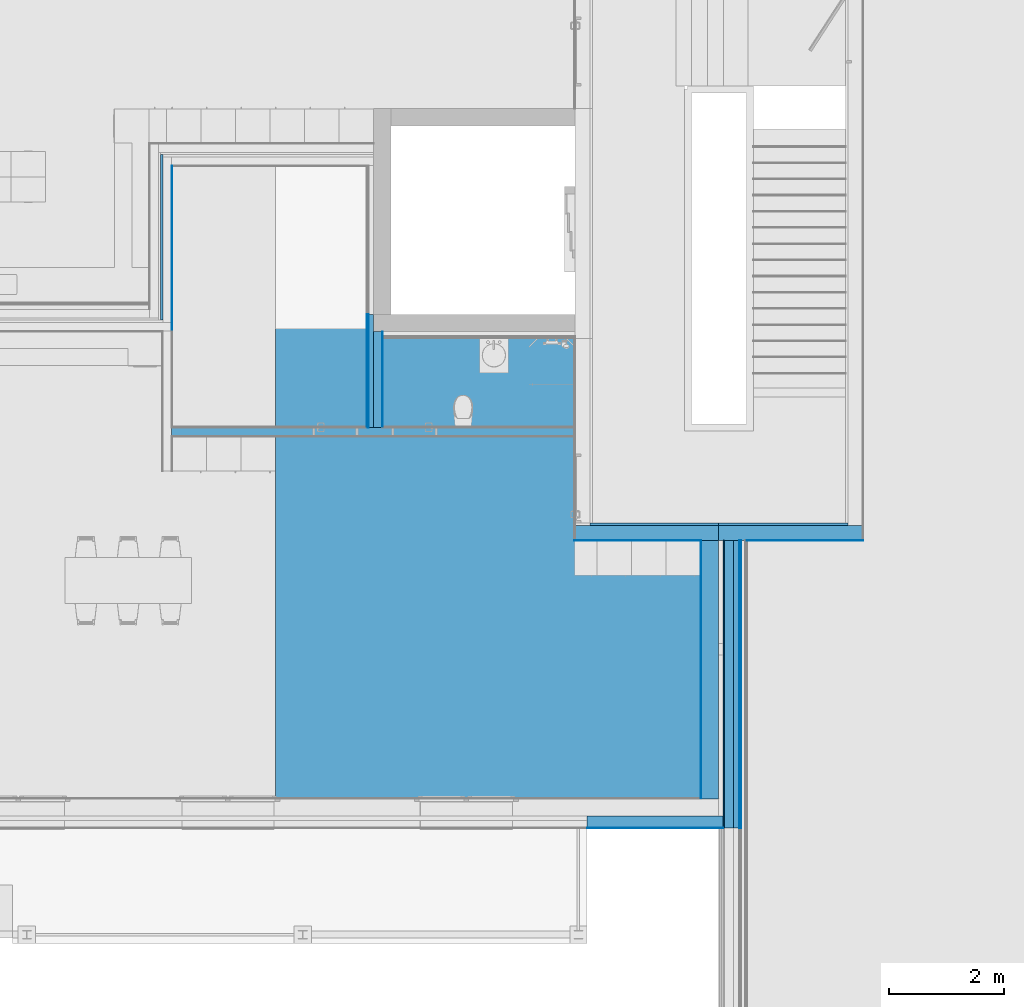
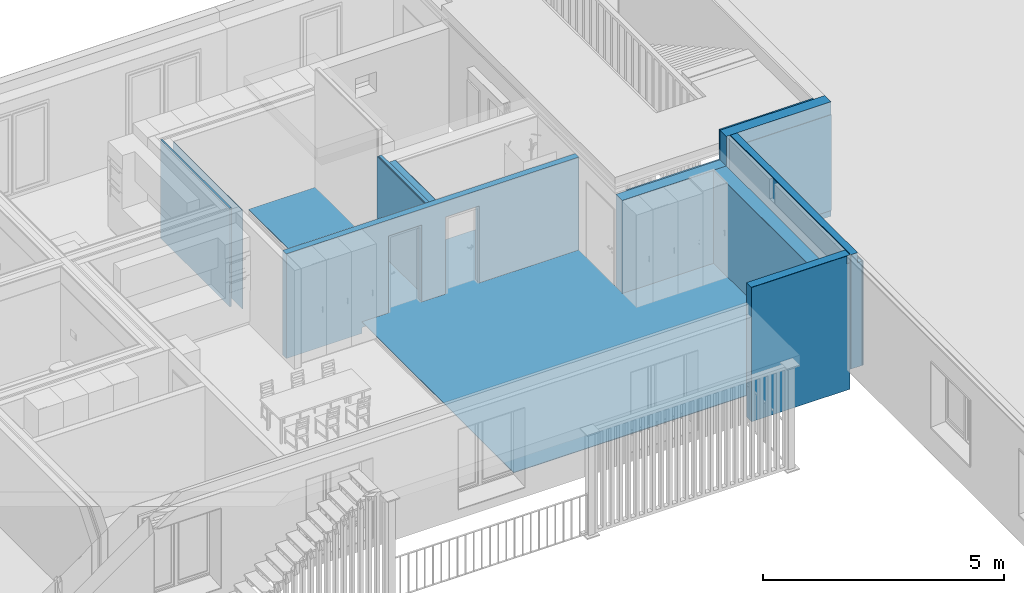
# One storey, part 11 of 34: 25 building element parts, 2 openings, 10 elements without a shape of their own.
"""IFC4 building model written with IfcOpenShell, lengths in millimetres."""

from ifc_helpers import new_model, entity, si_unit, converted_unit, derived_unit, direction, frame, origin_with_axes, place, context, subcontext, project, spatial, polygons, material, type_object, element, aggregate, save


model = new_model("IFC4")

# Units and contexts
model_context = context("Model", 3, precision=0.01, world=origin_with_axes(), true_north=direction((0.0, 1.0)))
body_context = subcontext(model_context, "Body", "Model", "MODEL_VIEW")
ifc_project = project(units=[si_unit("LENGTHUNIT", "METRE", prefix="MILLI"), si_unit("AREAUNIT", "SQUARE_METRE"), si_unit("VOLUMEUNIT", "CUBIC_METRE"), converted_unit("PLANEANGLEUNIT", "DEGREE", entity("IfcPlaneAngleMeasure", 0.0174532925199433), si_unit("PLANEANGLEUNIT", "RADIAN"), dimensions=[0, 0, 0, 0, 0, 0, 0]), converted_unit("TIMEUNIT", "Year", entity("IfcTimeMeasure", 31557600.0), si_unit("TIMEUNIT", "SECOND"), dimensions=[0, 0, 1, 0, 0, 0, 0]), si_unit("MASSUNIT", "GRAM", prefix="KILO"), si_unit("THERMODYNAMICTEMPERATUREUNIT", "DEGREE_CELSIUS"), si_unit("LUMINOUSINTENSITYUNIT", "LUMEN"), si_unit("ENERGYUNIT", "JOULE", prefix="MEGA"), derived_unit("THERMALCONDUCTANCEUNIT", [(si_unit("POWERUNIT", "WATT"), 1), (si_unit("LENGTHUNIT", "METRE"), -1), (si_unit("THERMODYNAMICTEMPERATUREUNIT", "KELVIN"), -1)]), derived_unit("SPECIFICHEATCAPACITYUNIT", [(si_unit("ENERGYUNIT", "JOULE"), 1), (si_unit("MASSUNIT", "GRAM", prefix="KILO"), -1), (si_unit("THERMODYNAMICTEMPERATUREUNIT", "KELVIN"), -1)]), derived_unit("MASSDENSITYUNIT", [(si_unit("MASSUNIT", "GRAM", prefix="KILO"), 1), (si_unit("VOLUMEUNIT", "CUBIC_METRE"), -1)])], contexts=[model_context])

# Site, building, storey
site_placement = place(None, origin_with_axes())
site = spatial("IfcSite", under=ifc_project, at=site_placement, Name="Gelände", CompositionType="ELEMENT")
building_placement = place(site_placement, origin_with_axes())
building = spatial("IfcBuilding", under=site, at=building_placement, Name="Gebäude", CompositionType="ELEMENT")
storey_placement = place(building_placement, frame((0.0, 0.0, 5799.999999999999), z_axis=(0.0, 0.0, 1.0), x_axis=(1.0, 0.0, 0.0)))
storey = spatial("IfcBuildingStorey", under=building, at=storey_placement, Name="2.OG", CompositionType="ELEMENT", Elevation=5800.0)

# Wall, building element parts
wall_type_1 = type_object("IfcWallType", Name="Vorsatzschale 01 115", PredefinedType="NOTDEFINED")
wall_1_placement = place(storey_placement, frame((11813.99744477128, 31872.59728131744, 0.0), z_axis=(0.0, 0.0, 1.0), x_axis=(0.0, -1.0, 0.0)))
wall_1 = element("IfcWall", 1, at=wall_1_placement, inside=storey, type_object=wall_type_1, Name="Wand-014", PredefinedType="NOTDEFINED")
ifc_material_1 = material(Name="Ständer Konstruktion gedämmt")
building_element_part_1_placement = place(wall_1_placement, origin_with_axes())
building_element_part_1 = element("IfcBuildingElementPart", 2, at=building_element_part_1_placement, material=ifc_material_1, Name="Ständer Konstruktion gedämmt", PredefinedType="NOTDEFINED", context=body_context, shape_type="Tessellation", body=[
    polygons([(1964.999999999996, 115.0000000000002, 150.0000000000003), (0.0, 115.0000000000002, 150.0000000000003), (0.0, 115.0000000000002, 2649.999948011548), (1964.999999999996, 115.0000000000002, 2649.999948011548), (0.0, 35.00000000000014, 150.0000000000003), (1964.999999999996, 35.00000000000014, 150.0000000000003), (0.0, 35.00000000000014, 2649.999948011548), (1964.999999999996, 35.00000000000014, 2649.999948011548)], [[[1, 2, 3, 4]], [[5, 2, 1, 6]], [[2, 5, 7, 3]], [[8, 4, 3, 7]], [[6, 1, 4, 8]], [[5, 6, 8, 7]]], closed=True),
])
ifc_material_2 = material(Name="Gipskartonplatte GKP")
building_element_part_2_placement = place(wall_1_placement, origin_with_axes())
building_element_part_2 = element("IfcBuildingElementPart", 3, at=building_element_part_2_placement, material=ifc_material_2, Name="Gipskartonplatte GKP", PredefinedType="NOTDEFINED", context=body_context, shape_type="Tessellation", body=[
    polygons([(1964.999999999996, 35.00000000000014, 150.0000000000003), (0.0, 35.00000000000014, 150.0000000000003), (0.0, 35.00000000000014, 2649.999948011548), (1964.999999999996, 35.00000000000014, 2649.999948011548), (0.0, 22.50000000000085, 150.0000000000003), (1964.999999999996, 22.49999999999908, 150.0000000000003), (0.0, 22.50000000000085, 2649.999948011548), (1964.999999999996, 22.49999999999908, 2649.999948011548)], [[[1, 2, 3, 4]], [[5, 2, 1, 6]], [[2, 5, 7, 3]], [[8, 4, 3, 7]], [[6, 1, 4, 8]], [[5, 6, 8, 7]]], closed=True),
])
building_element_part_3_placement = place(wall_1_placement, origin_with_axes())
building_element_part_3 = element("IfcBuildingElementPart", 4, at=building_element_part_3_placement, material=ifc_material_2, Name="Gipskartonplatte GKP", PredefinedType="NOTDEFINED", context=body_context, shape_type="Tessellation", body=[
    polygons([(1964.999999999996, 22.49999999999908, 150.0000000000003), (0.0, 22.50000000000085, 150.0000000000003), (0.0, 22.50000000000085, 2649.999948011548), (1964.999999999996, 22.49999999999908, 2649.999948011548), (0.0, 9.999999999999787, 150.0000000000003), (1964.999999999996, 9.999999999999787, 150.0000000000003), (0.0, 9.999999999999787, 2649.999948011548), (1964.999999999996, 9.999999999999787, 2649.999948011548)], [[[1, 2, 3, 4]], [[5, 2, 1, 6]], [[2, 5, 7, 3]], [[8, 4, 3, 7]], [[6, 1, 4, 8]], [[5, 6, 8, 7]]], closed=True),
])
ifc_material_3 = material(Name="Kalkzementputz Aussen")
building_element_part_4_placement = place(wall_1_placement, origin_with_axes())
building_element_part_4 = element("IfcBuildingElementPart", 5, at=building_element_part_4_placement, material=ifc_material_3, Name="Kalkzementputz Aussen", PredefinedType="NOTDEFINED", context=body_context, shape_type="Tessellation", body=[
    polygons([(1954.999999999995, 9.999999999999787, 300.0000000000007), (0.0, 9.999999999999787, 300.0000000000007), (0.0, 9.999999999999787, 2649.999948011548), (1954.999999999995, 9.999999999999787, 2649.999948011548), (1954.999999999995, 0.0, 300.0000000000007), (0.0, 0.0, 300.0000000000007), (0.0, 0.0, 2649.999948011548), (1954.999999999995, 0.0, 2649.999948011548)], [[[1, 2, 3, 4]], [[2, 1, 5, 6]], [[2, 6, 7, 3]], [[8, 4, 3, 7]], [[5, 1, 4, 8]], [[5, 8, 7, 6]]], closed=True),
])
aggregate(wall_1, [building_element_part_1, building_element_part_2, building_element_part_3, building_element_part_4])

wall_type_2 = type_object("IfcWallType", Name="Innenwand Typ 10 310", PredefinedType="NOTDEFINED")
wall_2_placement = place(storey_placement, frame((17919.99745889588, 27937.59728131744, 499.9999999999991), z_axis=(0.0, 0.0, 1.0), x_axis=(1.0, 0.0, 0.0)))
wall_2 = element("IfcWall", 6, at=wall_2_placement, inside=storey, type_object=wall_type_2, Name="Wand-014", PredefinedType="NOTDEFINED")
ifc_material_4 = material(Name="Sichtbeton")
building_element_part_5_placement = place(wall_2_placement, origin_with_axes())
building_element_part_5 = element("IfcBuildingElementPart", 7, at=building_element_part_5_placement, material=ifc_material_4, Name="Sichtbeton", PredefinedType="NOTDEFINED", context=body_context, shape_type="Tessellation", body=[
    polygons([(2248.999985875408, 309.9999999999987, 0.0), (-300.000014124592, 310.0000026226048, 0.0), (-300.000014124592, 310.0000141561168, 2150.000000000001), (0.0, 309.9999999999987, 2150.000000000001), (0.0, 309.9999999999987, 2900.000000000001), (2248.999985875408, 309.9999999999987, 2900.000000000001), (2248.999985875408, 269.9999999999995, 0.0), (-300.000014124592, 269.9999999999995, 0.0), (-300.000014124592, 269.9999999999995, 2150.000000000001), (0.0, 269.9999999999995, 2150.000000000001), (0.0, 269.9999999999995, 2900.000000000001), (2248.999985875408, 269.9999999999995, 2900.000000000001)], [[[1, 2, 3, 4, 5, 6]], [[7, 8, 2, 1]], [[8, 9, 3, 2]], [[4, 3, 9, 10]], [[4, 10, 11, 5]], [[12, 6, 5, 11]], [[7, 1, 6, 12]], [[10, 9, 8, 7, 12, 11]]], closed=True),
])
ifc_material_5 = material(Name="Beton bewehrt")
building_element_part_6_placement = place(wall_2_placement, origin_with_axes())
building_element_part_6 = element("IfcBuildingElementPart", 8, at=building_element_part_6_placement, material=ifc_material_5, Name="Beton bewehrt", PredefinedType="NOTDEFINED", context=body_context, shape_type="Tessellation", body=[
    polygons([(2508.999985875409, 269.9999999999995, 0.0), (-300.000014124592, 269.9999999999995, 0.0), (-300.000014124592, 269.9999999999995, 2150.000000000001), (0.0, 269.9999999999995, 2150.000000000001), (0.0, 269.9999999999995, 2900.000000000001), (2508.999985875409, 269.9999999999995, 2900.000000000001), (2508.999985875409, 10.00000000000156, 0.0), (-300.000014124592, 10.00000000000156, 0.0), (-300.000014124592, 10.00000000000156, 2150.000000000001), (0.0, 10.00000000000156, 2150.000000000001), (0.0, 10.00000000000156, 2900.000000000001), (2508.999985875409, 10.00000000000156, 2900.000000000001)], [[[1, 2, 3, 4, 5, 6]], [[7, 8, 2, 1]], [[8, 9, 3, 2]], [[4, 3, 9, 10]], [[4, 10, 11, 5]], [[12, 6, 5, 11]], [[7, 1, 6, 12]], [[10, 9, 8, 7, 12, 11]]], closed=True),
])
building_element_part_7_placement = place(wall_2_placement, origin_with_axes())
building_element_part_7 = element("IfcBuildingElementPart", 9, at=building_element_part_7_placement, material=ifc_material_3, Name="Kalkzementputz Aussen", PredefinedType="NOTDEFINED", context=body_context, shape_type="Tessellation", body=[
    polygons([(492.9999858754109, 9.999999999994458, 2578.999948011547), (2508.999985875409, 9.999999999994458, 2578.999948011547), (2518.999985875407, 10.00000000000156, 2578.999948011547), (2518.999985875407, 10.00000000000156, 150.0000000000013), (2508.999985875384, 9.999999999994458, 150.0000000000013), (492.9999858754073, 9.999999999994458, 150.0000000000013), (2518.999985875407, 0.0, 2578.999948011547), (492.9999858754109, 0.0, 2578.999948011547), (2518.999985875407, 0.0, 150.0000000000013), (492.9999858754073, 0.0, 150.0000000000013)], [[[1, 2, 3, 4, 5, 6]], [[7, 3, 2, 1, 8]], [[3, 7, 9, 4]], [[5, 4, 9, 10, 6]], [[8, 1, 6, 10]], [[7, 8, 10, 9]]], closed=True),
])
aggregate(wall_2, [building_element_part_5, building_element_part_6, building_element_part_7])

# Curtain wall, building element parts
curtain_wall_type = type_object("IfcCurtainWallType", Name="Fassade Typ 01 - Kompaktfassade 210", PredefinedType="NOTDEFINED")
curtain_wall_placement = place(storey_placement, frame((15637.99581849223, 22947.59674077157, 0.0), z_axis=(0.0, 0.0, 1.0), x_axis=(1.0, 0.0, 0.0)))
curtain_wall = element("IfcCurtainWall", 10, at=curtain_wall_placement, inside=storey, type_object=curtain_wall_type, Name="Wand-014", PredefinedType="NOTDEFINED")
ifc_material_6 = material(Name="Dämmung Aussen")
building_element_part_8_placement = place(curtain_wall_placement, origin_with_axes())
building_element_part_8 = element("IfcBuildingElementPart", 11, at=building_element_part_8_placement, material=ifc_material_6, Name="Dämmung Aussen", PredefinedType="NOTDEFINED", context=body_context, shape_type="Tessellation", body=[
    polygons([(2362.001626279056, 210.0000007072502, 0.0), (0.0, 210.0000059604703, 0.0), (0.0, 210.0000000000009, 2900.0), (0.0, 210.0000000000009, 3400.0), (2362.001626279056, 210.0000000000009, 3400.0), (0.0, 10.00000968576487, 0.0), (2362.001626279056, 10.00000114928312, 0.0), (0.0, 10.00000000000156, 3400.0), (2362.001626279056, 10.00000000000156, 3400.0)], [[[1, 2, 3, 4, 5]], [[6, 2, 1, 7]], [[2, 6, 8, 4, 3]], [[9, 5, 4, 8]], [[7, 1, 5, 9]], [[7, 9, 8, 6]]], closed=True),
])
ifc_material_7 = material(Name="Zementputz Aussen")
building_element_part_9_placement = place(curtain_wall_placement, origin_with_axes())
building_element_part_9 = element("IfcBuildingElementPart", 12, at=building_element_part_9_placement, material=ifc_material_7, Name="Zementputz Aussen", PredefinedType="NOTDEFINED", context=body_context, shape_type="Tessellation", body=[
    polygons([(2362.001626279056, 10.00000114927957, 0.0), (0.0, 10.00000968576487, 0.0), (0.0, 10.00000000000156, 3400.0), (2291.001626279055, 10.00000000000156, 3400.0), (2291.001626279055, 10.00000000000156, 3200.000000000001), (2362.001626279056, 10.00000006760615, 3200.000000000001), (0.0, 0.0, 0.0), (2362.001626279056, 0.0, 0.0), (0.0, 0.0, 2900.0), (0.0, 0.0, 3400.0), (2291.001626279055, 0.0, 3400.0), (2291.001626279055, 0.0, 3200.000000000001), (2362.001626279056, 0.0, 3200.000000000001)], [[[1, 2, 3, 4, 5, 6]], [[7, 2, 1, 8]], [[2, 7, 9, 10, 3]], [[11, 4, 3, 10]], [[11, 12, 5, 4]], [[5, 12, 13, 6]], [[8, 1, 6, 13]], [[12, 11, 10, 9, 7, 8, 13]]], closed=True),
])
aggregate(curtain_wall, [building_element_part_8, building_element_part_9])

# Wall, building element parts
wall_type_3 = type_object("IfcWallType", Name="Innenwand Typ 09 310", PredefinedType="NOTDEFINED")
wall_3_placement = place(storey_placement, frame((17919.99744477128, 28247.59728131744, 150.0000000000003), z_axis=(0.0, 0.0, 1.0), x_axis=(0.0, -1.0, 0.0)))
wall_3 = element("IfcWall", 13, at=wall_3_placement, inside=storey, type_object=wall_type_3, Name="Wand-014", PredefinedType="NOTDEFINED")
building_element_part_10_placement = place(wall_3_placement, origin_with_axes())
building_element_part_10 = element("IfcBuildingElementPart", 14, at=building_element_part_10_placement, material=ifc_material_5, Name="Beton bewehrt", PredefinedType="NOTDEFINED", context=body_context, shape_type="Tessellation", body=[
    polygons([(300.0000012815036, 1.981856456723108e-06, 349.9999999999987), (300.0000000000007, 1.415611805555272e-05, 2500.0), (4790.000540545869, 0.0, 2500.0), (4790.000540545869, 0.0, 0.0), (300.0000007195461, 0.0, 0.0), (300.0000000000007, -300.0000000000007, 2500.0), (300.0000007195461, -300.0000000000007, 0.0), (4790.000540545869, -300.0000000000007, 2500.0), (4790.000540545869, -300.0000000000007, 0.0)], [[[1, 2, 3, 4, 5]], [[6, 2, 1, 5, 7]], [[2, 6, 8, 3]], [[9, 4, 3, 8]], [[7, 5, 4, 9]], [[6, 7, 9, 8]]], closed=True),
])
building_element_part_11_placement = place(wall_3_placement, origin_with_axes())
building_element_part_11 = element("IfcBuildingElementPart", 15, at=building_element_part_11_placement, material=ifc_material_3, Name="Kalkzementputz Aussen", PredefinedType="NOTDEFINED", context=body_context, shape_type="Tessellation", body=[
    polygons([(4780.000540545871, -300.0000646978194, 150.0000000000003), (309.9999999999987, -300.0000646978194, 150.0000000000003), (309.9999999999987, -300.0000000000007, 2500.0), (4780.000540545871, -300.0000000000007, 2500.0), (309.9999999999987, -309.9999999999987, 150.0000000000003), (4780.000540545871, -310.0000000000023, 150.0000000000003), (309.9999999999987, -309.9999999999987, 2500.0), (4780.000540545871, -310.0000000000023, 2500.0)], [[[1, 2, 3, 4]], [[5, 2, 1, 6]], [[2, 5, 7, 3]], [[4, 3, 7, 8]], [[6, 1, 4, 8]], [[5, 6, 8, 7]]], closed=True),
])
aggregate(wall_3, [building_element_part_10, building_element_part_11])

wall_4_placement = place(storey_placement, frame((15728.99744477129, 28247.59728131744, 150.0000000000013), z_axis=(0.0, 0.0, 1.0), x_axis=(1.0, 0.0, 0.0)))
wall_4 = element("IfcWall", 16, at=wall_4_placement, inside=storey, type_object=wall_type_2, Name="Wand-014", PredefinedType="NOTDEFINED")
building_element_part_12_placement = place(wall_4_placement, origin_with_axes())
building_element_part_12 = element("IfcBuildingElementPart", 17, at=building_element_part_12_placement, material=ifc_material_4, Name="Sichtbeton", PredefinedType="NOTDEFINED", context=body_context, shape_type="Tessellation", body=[
    polygons([(2191.000014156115, -39.99999999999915, 2499.999999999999), (2191.000014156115, 0.0, 2499.999999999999), (-39.99999999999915, 0.0, 2499.999999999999), (-39.99999999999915, -39.99999999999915, 2499.999999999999), (2191.000014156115, 7.45057349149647e-07, 349.9999999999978), (2190.999999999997, -39.99999850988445, 0.0), (2190.999999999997, 7.45057349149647e-07, 0.0), (-39.99999999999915, 1.059881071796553e-07, 0.0), (-39.99999999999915, -39.99999978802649, 0.0)], [[[1, 2, 3, 4]], [[5, 2, 1, 6, 7]], [[2, 5, 7, 8, 3]], [[3, 8, 9, 4]], [[1, 4, 9, 6]], [[7, 6, 9, 8]]], closed=True),
])
building_element_part_13_placement = place(wall_4_placement, origin_with_axes())
building_element_part_13 = element("IfcBuildingElementPart", 18, at=building_element_part_13_placement, material=ifc_material_5, Name="Beton bewehrt", PredefinedType="NOTDEFINED", context=body_context, shape_type="Tessellation", body=[
    polygons([(-300.0000000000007, -300.0000000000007, 2499.999999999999), (2191.000014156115, -300.0000000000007, 2499.999999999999), (2191.000014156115, -39.99999999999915, 2499.999999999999), (-300.0000000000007, -39.99999999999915, 2499.999999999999), (2190.999999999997, -300.000001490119, 0.0), (-300.0000000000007, -300.0000000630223, 0.0), (2190.999999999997, -39.99999850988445, 0.0), (-300.0000000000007, -39.99999993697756, 0.0)], [[[1, 2, 3, 4]], [[5, 2, 1, 6]], [[7, 3, 2, 5]], [[4, 3, 7, 8]], [[1, 4, 8, 6]], [[8, 7, 5, 6]]], closed=True),
])
building_element_part_14_placement = place(wall_4_placement, origin_with_axes())
building_element_part_14 = element("IfcBuildingElementPart", 19, at=building_element_part_14_placement, material=ifc_material_3, Name="Kalkzementputz Aussen", PredefinedType="NOTDEFINED", context=body_context, shape_type="Tessellation", body=[
    polygons([(1890.999935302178, -309.9999999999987, 149.9999999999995), (1890.999935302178, -300.0000817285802, 149.9999999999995), (1890.999999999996, -300.0000000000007, 2499.999999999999), (1890.999999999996, -309.9999999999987, 2499.999999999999), (-300.0000921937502, -300.0000817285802, 149.9999999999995), (-310.0000000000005, -309.9999999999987, 149.9999999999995), (-310.0000000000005, -300.0000000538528, 149.9999999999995), (-310.0000000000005, -300.0000000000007, 2499.999999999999), (-310.0000000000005, -309.9999999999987, 2499.999999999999)], [[[1, 2, 3, 4]], [[5, 2, 1, 6, 7]], [[5, 7, 8, 3, 2]], [[9, 4, 3, 8]], [[6, 1, 4, 9]], [[7, 6, 9, 8]]], closed=True),
])
aggregate(wall_4, [building_element_part_12, building_element_part_13, building_element_part_14])

# Wall, openings, building element part
wall_type_4 = type_object("IfcWallType", Name="Innenwand Typ 05 170", PredefinedType="NOTDEFINED")
wall_5_placement = place(storey_placement, frame((15428.99744477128, 29917.59728131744, 0.0), z_axis=(0.0, 0.0, 1.0), x_axis=(-1.0, 0.0, 0.0)))
wall_5 = element("IfcWall", 20, at=wall_5_placement, inside=storey, type_object=wall_type_4, Name="Wand-014", PredefinedType="NOTDEFINED")
opening_1_placement = place(wall_5_placement, frame((4164.999999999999, 0.0, 150.0000000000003), z_axis=(0.0, 0.0, 1.0), x_axis=(1.0, 0.0, 0.0)))
element("IfcOpeningElement", 21, at=opening_1_placement, cuts=wall_5, Name="Tür-011", context=body_context, identifier="Reference", shape_type="Tessellation", body=[
    polygons([(400.0000000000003, 171.0000000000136, 2100.0), (400.0000000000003, 171.00000000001, -150.0000000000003), (-400.0000000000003, 171.0000000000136, -150.0000000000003), (-400.0000000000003, 171.0000000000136, 2100.0), (400.0000000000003, -1.000000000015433, 2100.0), (400.0000000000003, -1.000000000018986, -150.0000000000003), (-400.0000000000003, -1.000000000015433, -150.0000000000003), (-400.0000000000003, -1.000000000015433, 2100.0)], [[[1, 2, 3, 4]], [[5, 6, 2, 1]], [[6, 7, 3, 2]], [[7, 8, 4, 3]], [[8, 5, 1, 4]], [[7, 6, 5, 8]]], closed=True),
])
opening_2_placement = place(wall_5_placement, frame((2789.999999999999, 0.0, 150.0000000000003), z_axis=(0.0, 0.0, 1.0), x_axis=(1.0, 0.0, 0.0)))
element("IfcOpeningElement", 22, at=opening_2_placement, cuts=wall_5, Name="Tür-011", context=body_context, identifier="Reference", shape_type="Tessellation", body=[
    polygons([(400.0000000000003, 171.0000000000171, 2100.0), (400.0000000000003, 171.0000000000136, -150.0000000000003), (-400.0000000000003, 171.0000000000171, -150.0000000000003), (-400.0000000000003, 171.0000000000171, 2100.0), (400.0000000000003, -1.00000000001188, 2100.0), (400.0000000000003, -1.000000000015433, -150.0000000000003), (-400.0000000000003, -1.00000000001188, -150.0000000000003), (-400.0000000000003, -1.00000000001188, 2100.0)], [[[1, 2, 3, 4]], [[5, 6, 2, 1]], [[6, 7, 3, 2]], [[7, 8, 4, 3]], [[8, 5, 1, 4]], [[7, 6, 5, 8]]], closed=True),
])
ifc_material_8 = material(Name="MW, Backstein")
building_element_part_15_placement = place(wall_5_placement, origin_with_axes())
building_element_part_15 = element("IfcBuildingElementPart", 23, at=building_element_part_15_placement, material=ifc_material_8, Name="MW, Backstein", PredefinedType="NOTDEFINED", context=body_context, shape_type="Tessellation", body=[
    polygons([(3190.0, 10.00000000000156, 2250.0), (3190.0, 9.99999999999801, 300.0000000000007), (3190.0, 9.99999999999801, 150.0000000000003), (3764.999999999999, 10.00000000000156, 150.0000000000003), (3764.999999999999, 9.99999999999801, 300.0000000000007), (3764.999999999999, 10.00000000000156, 2250.0), (4564.999999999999, 10.00000000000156, 2250.0), (4564.999999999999, 9.99999999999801, 300.0000000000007), (4564.999999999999, 9.99999999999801, 150.0000000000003), (5200.000000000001, 9.99999999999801, 150.0000000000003), (5200.000000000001, 9.99999999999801, 0.0), (7010.0, 9.99999999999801, 0.0), (7010.0, 9.99999999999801, 2649.999948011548), (0.0, 10.00000000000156, 2649.999948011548), (0.0, 10.00000000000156, 150.0000000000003), (2389.999999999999, 10.00000000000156, 150.0000000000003), (2389.999999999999, 9.99999999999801, 300.0000000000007), (2389.999999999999, 10.00000000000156, 2250.0), (3190.0, 160.0000000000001, 2250.0), (3190.0, 160.0000000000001, 300.0000000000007), (3190.0, 160.0000000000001, 150.0000000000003), (3764.999999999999, 160.0000000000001, 150.0000000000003), (3764.999999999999, 160.0000000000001, 300.0000000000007), (3764.999999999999, 160.0000000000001, 2250.0), (4564.999999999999, 160.0000000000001, 2250.0), (4564.999999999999, 160.0000000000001, 300.0000000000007), (4564.999999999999, 160.0000000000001, 150.0000000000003), (5200.000000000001, 160.0000000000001, 150.0000000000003), (5200.000000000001, 160.0000000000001, 0.0), (7010.0, 160.0000000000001, 0.0), (7010.0, 160.0000000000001, 2649.999948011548), (0.0, 160.0000000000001, 2649.999948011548), (0.0, 160.0000000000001, 150.0000000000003), (2389.999999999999, 160.0000000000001, 150.0000000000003), (2389.999999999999, 160.0000000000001, 300.0000000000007), (2389.999999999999, 160.0000000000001, 2250.0)], [[[1, 2, 3, 4, 5, 6, 7, 8, 9, 10, 11, 12, 13, 14, 15, 16, 17, 18]], [[2, 1, 19, 20]], [[2, 20, 21, 3]], [[3, 21, 22, 4]], [[5, 4, 22, 23]], [[5, 23, 24, 6]], [[6, 24, 25, 7]], [[7, 25, 26, 8]], [[26, 27, 9, 8]], [[28, 10, 9, 27]], [[28, 29, 11, 10]], [[30, 12, 11, 29]], [[31, 13, 12, 30]], [[32, 14, 13, 31]], [[14, 32, 33, 15]], [[15, 33, 34, 16]], [[35, 17, 16, 34]], [[18, 17, 35, 36]], [[1, 18, 36, 19]], [[36, 35, 34, 33, 32, 31, 30, 29, 28, 27, 26, 25, 24, 23, 22, 21, 20, 19]]], closed=True),
])
aggregate(wall_5, [building_element_part_15])

# Wall, building element parts
wall_type_5 = type_object("IfcWallType", Name="Trennwand Typ 03 - verputzt 200", PredefinedType="NOTDEFINED")
wall_6_placement = place(storey_placement, frame((8418.997444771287, 31582.59728131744, 0.0), z_axis=(0.0, 0.0, 1.0), x_axis=(0.0, 1.0, 0.0)))
wall_6 = element("IfcWall", 24, at=wall_6_placement, inside=storey, type_object=wall_type_5, Name="Wand-016", PredefinedType="NOTDEFINED")
ifc_material_9 = material(Name="Dämmung Innen")
building_element_part_16_placement = place(wall_6_placement, origin_with_axes())
building_element_part_16 = element("IfcBuildingElementPart", 25, at=building_element_part_16_placement, material=ifc_material_9, Name="Dämmung Innen", PredefinedType="NOTDEFINED", context=body_context, shape_type="Tessellation", body=[
    polygons([(190.0000000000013, 150.0000000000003, 150.0000000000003), (3064.99999999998, 150.0000000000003, 150.0000000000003), (3064.99999999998, 150.0000000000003, 2649.999948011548), (190.0000000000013, 150.0000000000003, 2649.999948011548), (3064.99999999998, 189.9999999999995, 150.0000000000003), (190.0000000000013, 189.9999999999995, 150.0000000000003), (3064.99999999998, 189.9999999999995, 2649.999948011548), (190.0000000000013, 189.9999999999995, 2649.999948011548)], [[[1, 2, 3, 4]], [[5, 2, 1, 6]], [[2, 5, 7, 3]], [[3, 7, 8, 4]], [[6, 1, 4, 8]], [[5, 6, 8, 7]]], closed=True),
])
building_element_part_17_placement = place(wall_6_placement, origin_with_axes())
building_element_part_17 = element("IfcBuildingElementPart", 26, at=building_element_part_17_placement, material=ifc_material_3, Name="Kalkzementputz Aussen", PredefinedType="NOTDEFINED", context=body_context, shape_type="Tessellation", body=[
    polygons([(0.0, -9.999999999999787, 150.0000000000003), (2874.999999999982, -9.999999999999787, 150.0000000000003), (2874.999999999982, -9.999999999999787, 2649.999948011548), (0.0, -9.999999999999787, 2649.999948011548), (2874.999999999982, 0.0, 150.0000000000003), (0.0, 0.0, 150.0000000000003), (2874.999999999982, 0.0, 2649.999948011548), (0.0, 0.0, 2649.999948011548)], [[[1, 2, 3, 4]], [[5, 2, 1, 6]], [[2, 5, 7, 3]], [[4, 3, 7, 8]], [[6, 1, 4, 8]], [[5, 6, 8, 7]]], closed=True),
])
aggregate(wall_6, [building_element_part_16, building_element_part_17])

wall_type_6 = type_object("IfcWallType", Name="Innenwand Typ 03 160", PredefinedType="NOTDEFINED")
wall_7_placement = place(storey_placement, frame((11928.99744477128, 31572.59728131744, 150.0000000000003), z_axis=(0.0, 0.0, 1.0), x_axis=(0.0, -1.0, 0.0)))
wall_7 = element("IfcWall", 27, at=wall_7_placement, inside=storey, type_object=wall_type_6, Name="Wand-014", PredefinedType="NOTDEFINED")
building_element_part_18_placement = place(wall_7_placement, origin_with_axes())
building_element_part_18 = element("IfcBuildingElementPart", 28, at=building_element_part_18_placement, material=ifc_material_3, Name="Kalkzementputz Aussen", PredefinedType="NOTDEFINED", context=body_context, shape_type="Tessellation", body=[
    polygons([(1654.999999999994, 160.0000000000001, 150.0000000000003), (7.388802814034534e-05, 160.0000000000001, 150.0000000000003), (0.0, 160.0000000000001, 2499.999950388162), (1654.999999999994, 160.0000000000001, 2499.999948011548), (7.388802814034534e-05, 150.0000000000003, 150.0000000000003), (1654.999999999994, 150.0000000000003, 150.0000000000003), (0.0, 150.0000000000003, 2499.999950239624), (1654.999999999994, 150.0000000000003, 2499.999948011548)], [[[1, 2, 3, 4]], [[5, 2, 1, 6]], [[2, 5, 7, 3]], [[4, 3, 7, 8]], [[6, 1, 4, 8]], [[5, 6, 8, 7]]], closed=True),
])
building_element_part_19_placement = place(wall_7_placement, origin_with_axes())
building_element_part_19 = element("IfcBuildingElementPart", 29, at=building_element_part_19_placement, material=ifc_material_8, Name="MW, Backstein", PredefinedType="NOTDEFINED", context=body_context, shape_type="Tessellation", body=[
    polygons([(0.0, 150.0000000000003, 0.0), (0.0, 150.0000000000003, 2499.999950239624), (1664.999999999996, 150.0000000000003, 2499.999948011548), (1664.999999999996, 150.0000000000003, 0.0), (0.0, 0.0, 2499.999948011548), (0.0, 0.0, 0.0), (1664.999999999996, 0.0, 2499.999948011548), (1664.999999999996, 0.0, 0.0)], [[[1, 2, 3, 4]], [[5, 2, 1, 6]], [[2, 5, 7, 3]], [[7, 8, 4, 3]], [[6, 1, 4, 8]], [[5, 6, 8, 7]]], closed=True),
])
aggregate(wall_7, [building_element_part_18, building_element_part_19])

# Covering, building element part
covering_type = type_object("IfcCoveringType", Name="Bodenaufbau Typ 01 150", PredefinedType="NOTDEFINED")
covering_placement = place(storey_placement, frame((10228.99744477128, 23457.59674077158, 150.0000000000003), z_axis=(0.0, 0.0, 1.0), x_axis=(1.0, 0.0, 0.0)))
covering = element("IfcCovering", 30, at=covering_placement, inside=storey, type_object=covering_type, Name="Decke-007", PredefinedType="NOTDEFINED")
ifc_material_10 = material(Name="Bodenbelag")
building_element_part_20_placement = place(covering_placement, origin_with_axes())
building_element_part_20 = element("IfcBuildingElementPart", 31, at=building_element_part_20_placement, material=ifc_material_10, Name="Bodenbelag", PredefinedType="NOTDEFINED", context=body_context, shape_type="Tessellation", body=[
    polygons([(1595.000000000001, 6450.000540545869, 150.0000000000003), (1595.000000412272, 11000.00054054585, 150.0000000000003), (0.0, 11000.00046197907, 150.0000000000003), (0.0, 6450.000540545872, 150.0000000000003), (635.0000000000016, 6450.000540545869, 150.0000000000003), (635.0000000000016, 6300.000540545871, 150.0000000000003), (0.0, 6300.000540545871, 150.0000000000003), (0.0, 0.0, 150.0000000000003), (7390.999935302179, 0.0, 150.0000000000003), (7390.999935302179, 4490.000458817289, 150.0000000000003), (5199.999907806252, 4490.000458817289, 150.0000000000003), (5200.000000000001, 6300.000540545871, 150.0000000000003), (2810.000000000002, 6300.000540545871, 150.0000000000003), (2810.000000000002, 6450.000540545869, 150.0000000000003), (5200.000000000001, 6450.000540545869, 150.0000000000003), (5200.000000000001, 8010.000540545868, 150.0000000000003), (1860.000000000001, 8010.000540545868, 150.0000000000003), (1860.000000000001, 8115.000540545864, 150.0000000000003), (1850.000000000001, 8115.000466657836, 150.0000000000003), (1850.000000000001, 6450.000540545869, 150.0000000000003), (2010.000000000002, 6450.000540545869, 150.0000000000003), (2010.000000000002, 6300.000540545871, 150.0000000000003), (1435.000000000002, 6300.000540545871, 150.0000000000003), (1435.000000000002, 6450.000540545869, 150.0000000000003), (1595.000000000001, 6450.000540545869, 135.0000000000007), (1595.000000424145, 11000.00054054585, 135.0000000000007), (0.0, 11000.00046197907, 135.0000000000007), (0.0, 6450.000540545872, 135.0000000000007), (635.0000000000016, 6450.000540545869, 135.0000000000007), (635.0000000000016, 6300.000540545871, 135.0000000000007), (0.0, 6300.000540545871, 135.0000000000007), (0.0, 0.0, 135.0000000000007), (7390.999935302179, 0.0, 135.0000000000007), (7390.999935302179, 4490.000458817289, 135.0000000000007), (5199.999907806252, 4490.000458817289, 135.0000000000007), (5200.000000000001, 6300.000540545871, 135.0000000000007), (2810.000000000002, 6300.000540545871, 135.0000000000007), (2810.000000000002, 6450.000540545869, 135.0000000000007), (5200.000000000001, 6450.000540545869, 135.0000000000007), (5200.000000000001, 8010.000540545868, 135.0000000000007), (1860.000000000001, 8010.000540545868, 135.0000000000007), (1860.000000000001, 8115.000540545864, 135.0000000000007), (1850.000000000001, 8115.000466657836, 135.0000000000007), (1850.000000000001, 6450.000540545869, 135.0000000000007), (2010.000000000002, 6450.000540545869, 135.0000000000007), (2010.000000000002, 6300.000540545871, 135.0000000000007), (1435.000000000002, 6300.000540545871, 135.0000000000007), (1435.000000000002, 6450.000540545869, 135.0000000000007)], [[[1, 2, 3, 4, 5, 6, 7, 8, 9, 10, 11, 12, 13, 14, 15, 16, 17, 18, 19, 20, 21, 22, 23, 24]], [[2, 1, 25, 26]], [[2, 26, 27, 3]], [[28, 4, 3, 27]], [[5, 4, 28, 29]], [[6, 5, 29, 30]], [[7, 6, 30, 31]], [[7, 31, 32, 8]], [[32, 33, 9, 8]], [[33, 34, 10, 9]], [[34, 35, 11, 10]], [[36, 12, 11, 35]], [[13, 12, 36, 37]], [[14, 13, 37, 38]], [[39, 15, 14, 38]], [[40, 16, 15, 39]], [[17, 16, 40, 41]], [[17, 41, 42, 18]], [[18, 42, 43, 19]], [[20, 19, 43, 44]], [[20, 44, 45, 21]], [[22, 21, 45, 46]], [[23, 22, 46, 47]], [[24, 23, 47, 48]], [[25, 1, 24, 48]], [[25, 48, 47, 46, 45, 44, 43, 42, 41, 40, 39, 38, 37, 36, 35, 34, 33, 32, 31, 30, 29, 28, 27, 26]]], closed=True),
])
aggregate(covering, [building_element_part_20])

# Wall, building element parts
wall_type_7 = type_object("IfcWallType", Name="Aussenwand Typ 01 318", PredefinedType="NOTDEFINED")
wall_8_placement = place(storey_placement, frame((17999.99744477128, 27937.59728131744, 500.0), z_axis=(0.0, 0.0, 1.0), x_axis=(0.0, -1.0, 0.0)))
wall_8 = element("IfcWall", 32, at=wall_8_placement, inside=storey, type_object=wall_type_7, Name="Wand-014", PredefinedType="NOTDEFINED")
ifc_material_11 = material(Name="Verputz Innen")
building_element_part_21_placement = place(wall_8_placement, origin_with_axes())
building_element_part_21 = element("IfcBuildingElementPart", 33, at=building_element_part_21_placement, material=ifc_material_11, Name="Verputz Innen", PredefinedType="NOTDEFINED", context=body_context, shape_type="Tessellation", body=[
    polygons([(-9.999999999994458, 307.9999999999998, 2643.999948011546), (-9.999999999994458, 318.0000000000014, 2643.999948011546), (-10.00000000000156, 318.0000000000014, 0.0), (-10.00000000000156, 307.9999999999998, 0.0), (4990.112818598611, 317.9999999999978, 2643.999948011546), (4990.112818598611, 307.9999999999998, 2643.999948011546), (4990.112818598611, 317.9999999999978, 0.0), (4990.112818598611, 307.9999999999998, 0.0)], [[[1, 2, 3, 4]], [[5, 2, 1, 6]], [[2, 5, 7, 3]], [[3, 7, 8, 4]], [[6, 1, 4, 8]], [[5, 6, 8, 7]]], closed=True),
])
building_element_part_22_placement = place(wall_8_placement, origin_with_axes())
building_element_part_22 = element("IfcBuildingElementPart", 34, at=building_element_part_22_placement, material=ifc_material_1, Name="Ständer Konstruktion gedämmt", PredefinedType="NOTDEFINED", context=body_context, shape_type="Tessellation", body=[
    polygons([(-9.999999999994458, 177.9999999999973, 2643.999948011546), (-9.999999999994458, 277.9999999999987, 2643.999948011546), (-10.00000000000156, 277.9999999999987, 0.0), (-10.00000000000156, 18.00000000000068, 0.0), (-10.00000000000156, 18.00000000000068, 2900.0), (-9.999999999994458, 177.9999999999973, 2899.999948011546), (4990.112818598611, 277.9999999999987, 2643.999948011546), (4990.112818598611, 177.9999999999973, 2643.999948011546), (4990.112818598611, 277.9999999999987, 0.0), (4990.112818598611, 18.00000000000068, 0.0), (4990.112818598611, 18.00000000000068, 2900.0), (4990.112818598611, 177.9999999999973, 2899.999948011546)], [[[1, 2, 3, 4, 5, 6]], [[7, 2, 1, 8]], [[2, 7, 9, 3]], [[3, 9, 10, 4]], [[4, 10, 11, 5]], [[12, 6, 5, 11]], [[8, 1, 6, 12]], [[8, 12, 11, 10, 9, 7]]], closed=True),
])
ifc_material_12 = material(Name="Grobspanplatte-OSB")
building_element_part_23_placement = place(wall_8_placement, origin_with_axes())
building_element_part_23 = element("IfcBuildingElementPart", 35, at=building_element_part_23_placement, material=ifc_material_12, Name="Grobspanplatte-OSB", PredefinedType="NOTDEFINED", context=body_context, shape_type="Tessellation", body=[
    polygons([(-10.00000000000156, 18.00000000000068, 0.0), (4990.112818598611, 18.00000000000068, 0.0), (4990.112818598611, 0.0, 0.0), (-10.00000000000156, 0.0, 0.0), (-10.00000000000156, 18.00000000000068, 2900.0), (4990.112818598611, 18.00000000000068, 2900.0), (4990.112818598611, 0.0, 2900.0), (-10.00000000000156, 0.0, 2900.0)], [[[1, 2, 3, 4]], [[5, 6, 2, 1]], [[3, 2, 6, 7]], [[4, 3, 7, 8]], [[5, 1, 4, 8]], [[8, 7, 6, 5]]], closed=True),
])
ifc_material_13 = material(Name="Gipsfaserplatte GFP")
building_element_part_24_placement = place(wall_8_placement, origin_with_axes())
building_element_part_24 = element("IfcBuildingElementPart", 36, at=building_element_part_24_placement, material=ifc_material_13, Name="Gipsfaserplatte GFP", PredefinedType="NOTDEFINED", context=body_context, shape_type="Tessellation", body=[
    polygons([(-9.999999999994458, 292.9999999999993, 2643.999948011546), (-9.999999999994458, 307.9999999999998, 2643.999948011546), (-10.00000000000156, 307.9999999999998, 0.0), (-10.00000000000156, 292.9999999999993, 0.0), (4990.112818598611, 307.9999999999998, 2643.999948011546), (4990.112818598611, 292.9999999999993, 2643.999948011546), (4990.112818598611, 307.9999999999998, 0.0), (4990.112818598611, 292.9999999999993, 0.0)], [[[1, 2, 3, 4]], [[5, 2, 1, 6]], [[2, 5, 7, 3]], [[3, 7, 8, 4]], [[6, 1, 4, 8]], [[5, 6, 8, 7]]], closed=True),
])
building_element_part_25_placement = place(wall_8_placement, origin_with_axes())
building_element_part_25 = element("IfcBuildingElementPart", 37, at=building_element_part_25_placement, material=ifc_material_13, Name="Gipsfaserplatte GFP", PredefinedType="NOTDEFINED", context=body_context, shape_type="Tessellation", body=[
    polygons([(-9.999999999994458, 277.9999999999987, 2643.999948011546), (-9.999999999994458, 292.9999999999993, 2643.999948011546), (-10.00000000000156, 292.9999999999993, 0.0), (-10.00000000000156, 277.9999999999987, 0.0), (4990.112818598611, 292.9999999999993, 2643.999948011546), (4990.112818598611, 277.9999999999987, 2643.999948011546), (4990.112818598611, 292.9999999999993, 0.0), (4990.112818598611, 277.9999999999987, 0.0)], [[[1, 2, 3, 4]], [[5, 2, 1, 6]], [[2, 5, 7, 3]], [[3, 7, 8, 4]], [[6, 1, 4, 8]], [[5, 6, 8, 7]]], closed=True),
])
aggregate(wall_8, [building_element_part_21, building_element_part_22, building_element_part_23, building_element_part_24, building_element_part_25])

save(model, "model.ifc")
